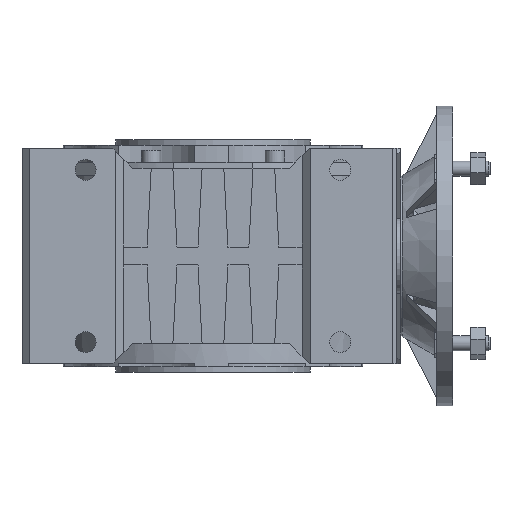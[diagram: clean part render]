
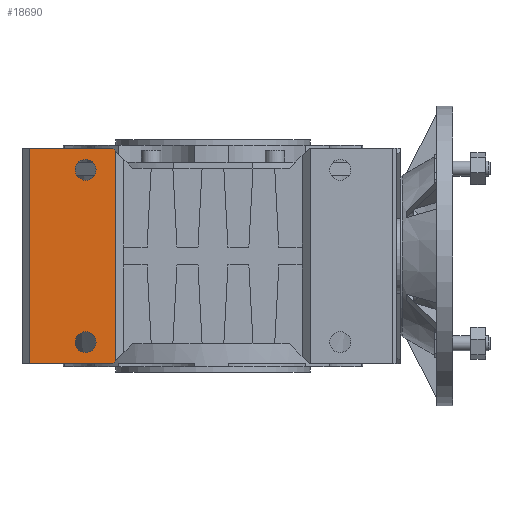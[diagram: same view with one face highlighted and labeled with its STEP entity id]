
A CAD part, front view. The second image highlights one B-rep face of the part: STEP entity #18690.
In plain terms, the highlighted planar face has unit normal (0, -1, 0).
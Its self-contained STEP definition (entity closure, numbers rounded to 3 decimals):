
#1245 = VERTEX_POINT ( 'NONE', #14417 ) ;
#1265 = VERTEX_POINT ( 'NONE', #14432 ) ;
#1269 = VERTEX_POINT ( 'NONE', #14435 ) ;
#1270 = VERTEX_POINT ( 'NONE', #14436 ) ;
#1272 = VERTEX_POINT ( 'NONE', #37574 ) ;
#1273 = VERTEX_POINT ( 'NONE', #3746 ) ;
#1834 = EDGE_LOOP ( 'NONE', ( #25384, #25385 ) ) ;
#1845 = EDGE_LOOP ( 'NONE', ( #25376, #25377, #25378, #25379, #25380, #25381 ) ) ;
#1853 = EDGE_LOOP ( 'NONE', ( #25382, #25383 ) ) ;
#2069 = VERTEX_POINT ( 'NONE', #3989 ) ;
#2209 = VERTEX_POINT ( 'NONE', #4083 ) ;
#2226 = VERTEX_POINT ( 'NONE', #4099 ) ;
#2243 = VERTEX_POINT ( 'NONE', #4114 ) ;
#3746 = CARTESIAN_POINT ( 'NONE',  ( -67., -127.5, 72. ) ) ;
#3989 = CARTESIAN_POINT ( 'NONE',  ( -85., -127.5, -50.5 ) ) ;
#4083 = CARTESIAN_POINT ( 'NONE',  ( -85., -127.5, 50.5 ) ) ;
#4099 = CARTESIAN_POINT ( 'NONE',  ( -85., -127.5, 64.5 ) ) ;
#4114 = CARTESIAN_POINT ( 'NONE',  ( -85., -127.5, -64.5 ) ) ;
#14062 = AXIS2_PLACEMENT_3D ( 'NONE', #20643, #20644, #20645 ) ;
#14064 = AXIS2_PLACEMENT_3D ( 'NONE', #20653, #20654, #20655 ) ;
#14417 = CARTESIAN_POINT ( 'NONE',  ( -122.5, -127.5, -72. ) ) ;
#14432 = CARTESIAN_POINT ( 'NONE',  ( -65., -127.5, 70. ) ) ;
#14435 = CARTESIAN_POINT ( 'NONE',  ( -122.5, -127.5, 72. ) ) ;
#14436 = CARTESIAN_POINT ( 'NONE',  ( -65., -127.5, -70. ) ) ;
#15534 = FACE_OUTER_BOUND ( 'NONE', #1845, .T. ) ;
#15535 = FACE_BOUND ( 'NONE', #1834, .T. ) ;
#15536 = FACE_BOUND ( 'NONE', #1853, .T. ) ;
#16488 = AXIS2_PLACEMENT_3D ( 'NONE', #37682, #37684, #37686 ) ;
#18690 = ADVANCED_FACE ( 'NONE', ( #15534, #15536, #15535 ), #37667, .T. ) ;
#20643 = CARTESIAN_POINT ( 'NONE',  ( -85., -127.5, -57.5 ) ) ;
#20644 = DIRECTION ( 'NONE',  ( 0., 1., 0. ) ) ;
#20645 = DIRECTION ( 'NONE',  ( 0., 0., -1. ) ) ;
#20653 = CARTESIAN_POINT ( 'NONE',  ( -85., -127.5, 57.5 ) ) ;
#20654 = DIRECTION ( 'NONE',  ( 0., 1., 0. ) ) ;
#20655 = DIRECTION ( 'NONE',  ( 0., 0., -1. ) ) ;
#25376 = ORIENTED_EDGE ( 'NONE', *, *, #27740, .T. ) ;
#25377 = ORIENTED_EDGE ( 'NONE', *, *, #27741, .F. ) ;
#25378 = ORIENTED_EDGE ( 'NONE', *, *, #27742, .T. ) ;
#25379 = ORIENTED_EDGE ( 'NONE', *, *, #27736, .F. ) ;
#25380 = ORIENTED_EDGE ( 'NONE', *, *, #27743, .T. ) ;
#25381 = ORIENTED_EDGE ( 'NONE', *, *, #27744, .T. ) ;
#25382 = ORIENTED_EDGE ( 'NONE', *, *, #27407, .T. ) ;
#25383 = ORIENTED_EDGE ( 'NONE', *, *, #27724, .T. ) ;
#25384 = ORIENTED_EDGE ( 'NONE', *, *, #27403, .T. ) ;
#25385 = ORIENTED_EDGE ( 'NONE', *, *, #27722, .T. ) ;
#27403 = EDGE_CURVE ( 'NONE', #2243, #2069, #38986, .T. ) ;
#27407 = EDGE_CURVE ( 'NONE', #2209, #2226, #38992, .T. ) ;
#27722 = EDGE_CURVE ( 'NONE', #2069, #2243, #39331, .T. ) ;
#27724 = EDGE_CURVE ( 'NONE', #2226, #2209, #39333, .T. ) ;
#27736 = EDGE_CURVE ( 'NONE', #1265, #1270, #39355, .T. ) ;
#27740 = EDGE_CURVE ( 'NONE', #1269, #1245, #39363, .T. ) ;
#27741 = EDGE_CURVE ( 'NONE', #1272, #1245, #39349, .T. ) ;
#27742 = EDGE_CURVE ( 'NONE', #1272, #1270, #39365, .T. ) ;
#27743 = EDGE_CURVE ( 'NONE', #1265, #1273, #39369, .T. ) ;
#27744 = EDGE_CURVE ( 'NONE', #1273, #1269, #39371, .T. ) ;
#35927 = CARTESIAN_POINT ( 'NONE',  ( -85., -127.5, -57.5 ) ) ;
#35928 = DIRECTION ( 'NONE',  ( 0., 1., 0. ) ) ;
#35929 = DIRECTION ( 'NONE',  ( 0., 0., -1. ) ) ;
#35937 = CARTESIAN_POINT ( 'NONE',  ( -85., -127.5, 57.5 ) ) ;
#35938 = DIRECTION ( 'NONE',  ( 0., 1., 0. ) ) ;
#35939 = DIRECTION ( 'NONE',  ( 0., 0., -1. ) ) ;
#35948 = CARTESIAN_POINT ( 'NONE',  ( 0., -127.5, -72. ) ) ;
#35953 = CARTESIAN_POINT ( 'NONE',  ( -67., -127.5, -72. ) ) ;
#35960 = CARTESIAN_POINT ( 'NONE',  ( -65., -127.5, -72. ) ) ;
#35961 = DIRECTION ( 'NONE',  ( 0., 0., -1. ) ) ;
#35968 = CARTESIAN_POINT ( 'NONE',  ( -122.5, -127.5, -72. ) ) ;
#35970 = DIRECTION ( 'NONE',  ( 0., 0., -1. ) ) ;
#35971 = DIRECTION ( 'NONE',  ( -1., 0., 0. ) ) ;
#35973 = DIRECTION ( 'NONE',  ( 0.707, 0., 0.707 ) ) ;
#35974 = CARTESIAN_POINT ( 'NONE',  ( -65., -127.5, 70. ) ) ;
#35975 = DIRECTION ( 'NONE',  ( -0.707, 0., 0.707 ) ) ;
#35976 = CARTESIAN_POINT ( 'NONE',  ( -65., -127.5, 72. ) ) ;
#35977 = DIRECTION ( 'NONE',  ( -1., 0., 0. ) ) ;
#36678 = AXIS2_PLACEMENT_3D ( 'NONE', #35927, #35928, #35929 ) ;
#36680 = AXIS2_PLACEMENT_3D ( 'NONE', #35937, #35938, #35939 ) ;
#37574 = CARTESIAN_POINT ( 'NONE',  ( -67., -127.5, -72. ) ) ;
#37667 = PLANE ( 'NONE',  #16488 ) ;
#37682 = CARTESIAN_POINT ( 'NONE',  ( -65., -127.5, -72. ) ) ;
#37684 = DIRECTION ( 'NONE',  ( 0., -1., 0. ) ) ;
#37686 = DIRECTION ( 'NONE',  ( 0., 0., -1. ) ) ;
#38986 = CIRCLE ( 'NONE', #14062, 7. ) ;
#38992 = CIRCLE ( 'NONE', #14064, 7. ) ;
#39331 = CIRCLE ( 'NONE', #36678, 7. ) ;
#39333 = CIRCLE ( 'NONE', #36680, 7. ) ;
#39349 = LINE ( 'NONE', #35948, #39368 ) ;
#39355 = LINE ( 'NONE', #35960, #39358 ) ;
#39358 = VECTOR ( 'NONE', #35961, 1000. ) ;
#39363 = LINE ( 'NONE', #35968, #39366 ) ;
#39365 = LINE ( 'NONE', #35953, #39370 ) ;
#39366 = VECTOR ( 'NONE', #35970, 1000. ) ;
#39368 = VECTOR ( 'NONE', #35971, 1000. ) ;
#39369 = LINE ( 'NONE', #35974, #39372 ) ;
#39370 = VECTOR ( 'NONE', #35973, 1000. ) ;
#39371 = LINE ( 'NONE', #35976, #39374 ) ;
#39372 = VECTOR ( 'NONE', #35975, 1000. ) ;
#39374 = VECTOR ( 'NONE', #35977, 1000. ) ;
